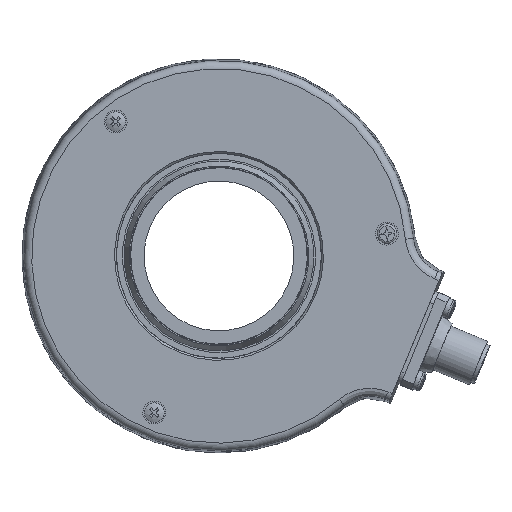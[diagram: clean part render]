
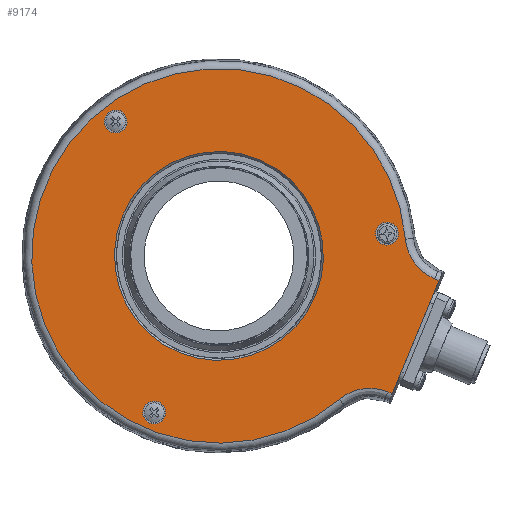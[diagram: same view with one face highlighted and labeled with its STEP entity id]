
A CAD part, left-side view. The second image highlights one B-rep face of the part: STEP entity #9174.
In plain terms, the highlighted planar face has unit normal (-1, 0, 0).
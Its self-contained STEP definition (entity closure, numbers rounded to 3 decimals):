
#269 = DIRECTION ( 'NONE',  ( 1., 0., 0. ) ) ;
#273 = CARTESIAN_POINT ( 'NONE',  ( -8.046, 14.594, -7.001 ) ) ;
#276 = PLANE ( 'NONE',  #14183 ) ;
#279 = DIRECTION ( 'NONE',  ( 0., -0.382, 0.924 ) ) ;
#428 = CARTESIAN_POINT ( 'NONE',  ( -8.046, -5.352, -32.051 ) ) ;
#429 = CARTESIAN_POINT ( 'NONE',  ( -8.046, -16.067, -2.861 ) ) ;
#443 = CARTESIAN_POINT ( 'NONE',  ( -8.046, 8.09, -33.473 ) ) ;
#444 = CARTESIAN_POINT ( 'NONE',  ( -8.046, -4.203, -31.576 ) ) ;
#446 = CARTESIAN_POINT ( 'NONE',  ( -8.046, -17.216, -3.336 ) ) ;
#456 = CARTESIAN_POINT ( 'NONE',  ( -8.046, -8.698, 7.159 ) ) ;
#1613 = LINE ( 'NONE', #2981, #1650 ) ;
#1643 = LINE ( 'NONE', #2964, #1651 ) ;
#1649 = CIRCLE ( 'NONE', #14376, 26.5 ) ;
#1650 = VECTOR ( 'NONE', #2968, 1000. ) ;
#1651 = VECTOR ( 'NONE', #2980, 1000. ) ;
#1652 = CIRCLE ( 'NONE', #14378, 2.9 ) ;
#1653 = CIRCLE ( 'NONE', #14377, 47.511 ) ;
#1654 = LINE ( 'NONE', #3015, #1655 ) ;
#1655 = VECTOR ( 'NONE', #3016, 1000. ) ;
#1658 = CIRCLE ( 'NONE', #14379, 2.9 ) ;
#1659 = CIRCLE ( 'NONE', #14380, 2.9 ) ;
#2964 = CARTESIAN_POINT ( 'NONE',  ( -8.046, -17.966, -1.519 ) ) ;
#2968 = DIRECTION ( 'NONE',  ( 0., 0.924, 0.382 ) ) ;
#2972 = CARTESIAN_POINT ( 'NONE',  ( -8.046, -15.051, -2.441 ) ) ;
#2976 = CARTESIAN_POINT ( 'NONE',  ( -8.046, -16.067, -2.861 ) ) ;
#2977 = CARTESIAN_POINT ( 'NONE',  ( -8.046, 38.624, 2.927 ) ) ;
#2978 = DIRECTION ( 'NONE',  ( 1., 0., 0. ) ) ;
#2979 = DIRECTION ( 'NONE',  ( 0., -0.382, 0.924 ) ) ;
#2980 = DIRECTION ( 'NONE',  ( 0., -0.382, 0.924 ) ) ;
#2981 = CARTESIAN_POINT ( 'NONE',  ( -8.046, -16.047, -2.853 ) ) ;
#2982 = CARTESIAN_POINT ( 'NONE',  ( -8.046, -14.115, -1.894 ) ) ;
#2983 = CARTESIAN_POINT ( 'NONE',  ( -8.046, -12.827, -0.887 ) ) ;
#2984 = CARTESIAN_POINT ( 'NONE',  ( -8.046, -12.416, -0.518 ) ) ;
#2985 = CARTESIAN_POINT ( 'NONE',  ( -8.046, -11.658, 0.264 ) ) ;
#2986 = CARTESIAN_POINT ( 'NONE',  ( -8.046, -11.308, 0.678 ) ) ;
#2987 = CARTESIAN_POINT ( 'NONE',  ( -8.046, -10.665, 1.551 ) ) ;
#2988 = CARTESIAN_POINT ( 'NONE',  ( -8.046, -10.371, 2.012 ) ) ;
#2989 = CARTESIAN_POINT ( 'NONE',  ( -8.046, -9.846, 2.976 ) ) ;
#2990 = CARTESIAN_POINT ( 'NONE',  ( -8.046, -9.62, 3.471 ) ) ;
#2991 = CARTESIAN_POINT ( 'NONE',  ( -8.046, -9.236, 4.485 ) ) ;
#2992 = CARTESIAN_POINT ( 'NONE',  ( -8.046, -9.078, 5.004 ) ) ;
#2993 = CARTESIAN_POINT ( 'NONE',  ( -8.046, -8.834, 6.067 ) ) ;
#2994 = CARTESIAN_POINT ( 'NONE',  ( -8.046, -8.747, 6.612 ) ) ;
#2995 = CARTESIAN_POINT ( 'NONE',  ( -8.046, -8.698, 7.159 ) ) ;
#2996 = CARTESIAN_POINT ( 'NONE',  ( -8.046, 8.09, -33.473 ) ) ;
#2997 = CARTESIAN_POINT ( 'NONE',  ( -8.046, 7.247, -32.766 ) ) ;
#2998 = CARTESIAN_POINT ( 'NONE',  ( -8.046, 38.624, 2.927 ) ) ;
#2999 = DIRECTION ( 'NONE',  ( -1., 0., 0. ) ) ;
#3000 = DIRECTION ( 'NONE',  ( 0., -0.382, 0.924 ) ) ;
#3001 = CARTESIAN_POINT ( 'NONE',  ( -8.046, 6.329, -32.19 ) ) ;
#3002 = CARTESIAN_POINT ( 'NONE',  ( -8.046, 4.841, -31.514 ) ) ;
#3003 = CARTESIAN_POINT ( 'NONE',  ( -8.046, 4.323, -31.321 ) ) ;
#3004 = CARTESIAN_POINT ( 'NONE',  ( -8.046, 3.279, -31.01 ) ) ;
#3005 = CARTESIAN_POINT ( 'NONE',  ( -8.046, 2.75, -30.891 ) ) ;
#3006 = CARTESIAN_POINT ( 'NONE',  ( -8.046, 1.679, -30.725 ) ) ;
#3007 = CARTESIAN_POINT ( 'NONE',  ( -8.046, 1.135, -30.678 ) ) ;
#3008 = CARTESIAN_POINT ( 'NONE',  ( -8.046, 0.037, -30.659 ) ) ;
#3009 = CARTESIAN_POINT ( 'NONE',  ( -8.046, -0.507, -30.687 ) ) ;
#3010 = CARTESIAN_POINT ( 'NONE',  ( -8.046, -1.583, -30.816 ) ) ;
#3011 = CARTESIAN_POINT ( 'NONE',  ( -8.046, -2.116, -30.916 ) ) ;
#3012 = CARTESIAN_POINT ( 'NONE',  ( -8.046, -3.172, -31.191 ) ) ;
#3013 = CARTESIAN_POINT ( 'NONE',  ( -8.046, -3.695, -31.366 ) ) ;
#3014 = CARTESIAN_POINT ( 'NONE',  ( -8.046, -4.203, -31.576 ) ) ;
#3015 = CARTESIAN_POINT ( 'NONE',  ( -8.046, -5.352, -32.051 ) ) ;
#3016 = DIRECTION ( 'NONE',  ( 0., -0.924, -0.382 ) ) ;
#3017 = CARTESIAN_POINT ( 'NONE',  ( -8.046, -4.003, 8.578 ) ) ;
#3018 = DIRECTION ( 'NONE',  ( -1., 0., 0. ) ) ;
#3019 = DIRECTION ( 'NONE',  ( 0., -0.991, 0.131 ) ) ;
#3020 = CARTESIAN_POINT ( 'NONE',  ( -8.046, 64.832, 37.017 ) ) ;
#3021 = DIRECTION ( 'NONE',  ( -1., 0., 0. ) ) ;
#3022 = DIRECTION ( 'NONE',  ( 0., 0.609, 0.793 ) ) ;
#3023 = CARTESIAN_POINT ( 'NONE',  ( -8.046, 55.044, -36.815 ) ) ;
#3024 = DIRECTION ( 'NONE',  ( -1., 0., 0. ) ) ;
#3025 = DIRECTION ( 'NONE',  ( 0., 0.382, -0.924 ) ) ;
#3206 = B_SPLINE_CURVE_WITH_KNOTS ( 'NONE', 3,
 ( #2996, #2997, #3001, #3002, #3003, #3004, #3005, #3006, #3007, #3008, #3009, #3010, #3011, #3012, #3013, #3014 ),
 .UNSPECIFIED., .F., .F.,
 ( 4, 2, 2, 2, 2, 2, 2, 4 ),
 ( 0., 0.003, 0.005, 0.007, 0.008, 0.01, 0.011, 0.013 ),
 .UNSPECIFIED. ) ;
#3224 = B_SPLINE_CURVE_WITH_KNOTS ( 'NONE', 3,
 ( #2976, #2972, #2982, #2983, #2984, #2985, #2986, #2987, #2988, #2989, #2990, #2991, #2992, #2993, #2994, #2995 ),
 .UNSPECIFIED., .F., .F.,
 ( 4, 2, 2, 2, 2, 2, 2, 4 ),
 ( 0., 0.003, 0.005, 0.007, 0.008, 0.01, 0.011, 0.013 ),
 .UNSPECIFIED. ) ;
#7016 = CARTESIAN_POINT ( 'NONE',  ( -8.046, 28.505, 27.419 ) ) ;
#7017 = CARTESIAN_POINT ( 'NONE',  ( -8.046, -6.878, 8.959 ) ) ;
#7018 = CARTESIAN_POINT ( 'NONE',  ( -8.046, 66.599, 39.316 ) ) ;
#7019 = CARTESIAN_POINT ( 'NONE',  ( -8.046, 56.151, -39.495 ) ) ;
#7440 = VERTEX_POINT ( 'NONE', #7016 ) ;
#7441 = VERTEX_POINT ( 'NONE', #7017 ) ;
#7442 = VERTEX_POINT ( 'NONE', #7018 ) ;
#7443 = VERTEX_POINT ( 'NONE', #7019 ) ;
#7826 = EDGE_LOOP ( 'NONE', ( #11486 ) ) ;
#7889 = EDGE_LOOP ( 'NONE', ( #11477 ) ) ;
#7893 = EDGE_LOOP ( 'NONE', ( #11478, #11479, #11480, #11481, #11482, #11483 ) ) ;
#9174 = ADVANCED_FACE ( 'NONE', ( #15538, #15542, #15540, #15541, #15530 ), #276, .F. ) ;
#9208 = EDGE_LOOP ( 'NONE', ( #11485 ) ) ;
#9224 = EDGE_LOOP ( 'NONE', ( #11484 ) ) ;
#9347 = VERTEX_POINT ( 'NONE', #428 ) ;
#9348 = VERTEX_POINT ( 'NONE', #429 ) ;
#9362 = VERTEX_POINT ( 'NONE', #443 ) ;
#9363 = VERTEX_POINT ( 'NONE', #444 ) ;
#9365 = VERTEX_POINT ( 'NONE', #446 ) ;
#9375 = VERTEX_POINT ( 'NONE', #456 ) ;
#10815 = EDGE_CURVE ( 'NONE', #7440, #7440, #1649, .T. ) ;
#10816 = EDGE_CURVE ( 'NONE', #9347, #9365, #1643, .T. ) ;
#10817 = EDGE_CURVE ( 'NONE', #9365, #9348, #1613, .T. ) ;
#10818 = EDGE_CURVE ( 'NONE', #9348, #9375, #3224, .T. ) ;
#10819 = EDGE_CURVE ( 'NONE', #9375, #9362, #1653, .T. ) ;
#10820 = EDGE_CURVE ( 'NONE', #9362, #9363, #3206, .T. ) ;
#10821 = EDGE_CURVE ( 'NONE', #9363, #9347, #1654, .T. ) ;
#10822 = EDGE_CURVE ( 'NONE', #7441, #7441, #1652, .T. ) ;
#10823 = EDGE_CURVE ( 'NONE', #7442, #7442, #1658, .T. ) ;
#10824 = EDGE_CURVE ( 'NONE', #7443, #7443, #1659, .T. ) ;
#11477 = ORIENTED_EDGE ( 'NONE', *, *, #10815, .T. ) ;
#11478 = ORIENTED_EDGE ( 'NONE', *, *, #10816, .T. ) ;
#11479 = ORIENTED_EDGE ( 'NONE', *, *, #10817, .T. ) ;
#11480 = ORIENTED_EDGE ( 'NONE', *, *, #10818, .T. ) ;
#11481 = ORIENTED_EDGE ( 'NONE', *, *, #10819, .T. ) ;
#11482 = ORIENTED_EDGE ( 'NONE', *, *, #10820, .T. ) ;
#11483 = ORIENTED_EDGE ( 'NONE', *, *, #10821, .T. ) ;
#11484 = ORIENTED_EDGE ( 'NONE', *, *, #10822, .F. ) ;
#11485 = ORIENTED_EDGE ( 'NONE', *, *, #10823, .F. ) ;
#11486 = ORIENTED_EDGE ( 'NONE', *, *, #10824, .F. ) ;
#14183 = AXIS2_PLACEMENT_3D ( 'NONE', #273, #269, #279 ) ;
#14376 = AXIS2_PLACEMENT_3D ( 'NONE', #2977, #2978, #2979 ) ;
#14377 = AXIS2_PLACEMENT_3D ( 'NONE', #2998, #2999, #3000 ) ;
#14378 = AXIS2_PLACEMENT_3D ( 'NONE', #3017, #3018, #3019 ) ;
#14379 = AXIS2_PLACEMENT_3D ( 'NONE', #3020, #3021, #3022 ) ;
#14380 = AXIS2_PLACEMENT_3D ( 'NONE', #3023, #3024, #3025 ) ;
#15530 = FACE_BOUND ( 'NONE', #7826, .T. ) ;
#15538 = FACE_BOUND ( 'NONE', #7889, .T. ) ;
#15540 = FACE_BOUND ( 'NONE', #9224, .T. ) ;
#15541 = FACE_BOUND ( 'NONE', #9208, .T. ) ;
#15542 = FACE_OUTER_BOUND ( 'NONE', #7893, .T. ) ;
